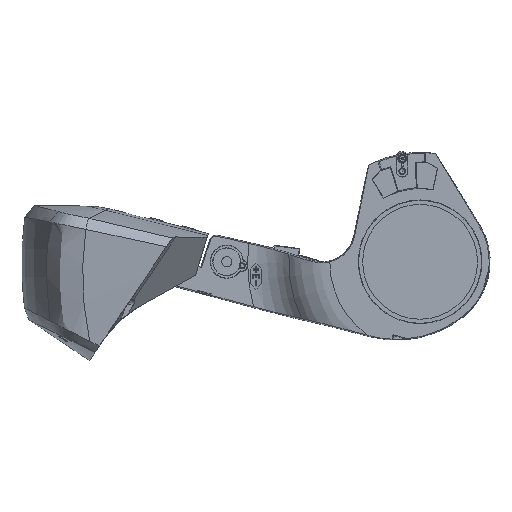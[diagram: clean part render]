
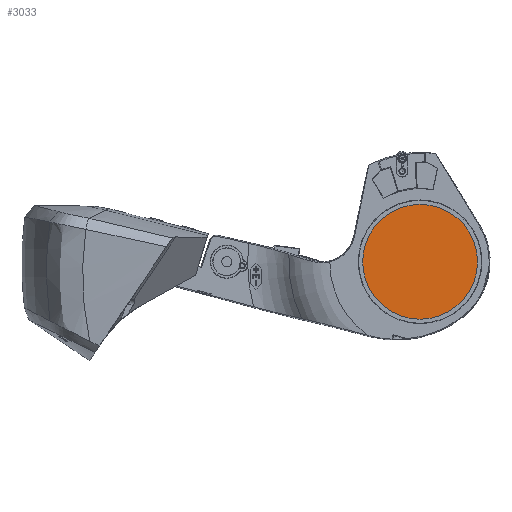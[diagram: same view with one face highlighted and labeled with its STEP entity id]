
A CAD part, front view. The second image highlights one B-rep face of the part: STEP entity #3033.
In plain terms, the highlighted planar face has unit normal (0, -1, 0).
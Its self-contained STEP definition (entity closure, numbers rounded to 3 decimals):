
#563 = DIRECTION ( 'NONE',  ( -1., 0., 0. ) ) ;
#977 = VERTEX_POINT ( 'NONE', #11642 ) ;
#3033 = ADVANCED_FACE ( 'NONE', ( #4954 ), #17967, .F. ) ;
#4954 = FACE_OUTER_BOUND ( 'NONE', #23760, .T. ) ;
#5455 = DIRECTION ( 'NONE',  ( 0., 1., 0. ) ) ;
#11642 = CARTESIAN_POINT ( 'NONE',  ( 162.5, -205., 930. ) ) ;
#13334 = CIRCLE ( 'NONE', #20844, 157.5 ) ;
#15023 = AXIS2_PLACEMENT_3D ( 'NONE', #18134, #5455, #563 ) ;
#16358 = DIRECTION ( 'NONE',  ( 0., 1., 0. ) ) ;
#17967 = PLANE ( 'NONE',  #15023 ) ;
#18134 = CARTESIAN_POINT ( 'NONE',  ( 320., -205., 1087.5 ) ) ;
#19654 = ORIENTED_EDGE ( 'NONE', *, *, #23428, .F. ) ;
#20844 = AXIS2_PLACEMENT_3D ( 'NONE', #29286, #16358, #24051 ) ;
#23428 = EDGE_CURVE ( 'NONE', #977, #977, #13334, .T. ) ;
#23760 = EDGE_LOOP ( 'NONE', ( #19654 ) ) ;
#24051 = DIRECTION ( 'NONE',  ( -1., 0., 0. ) ) ;
#29286 = CARTESIAN_POINT ( 'NONE',  ( 320., -205., 930. ) ) ;
